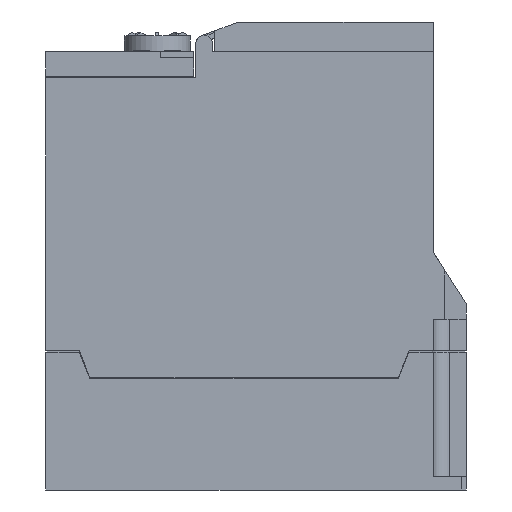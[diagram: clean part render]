
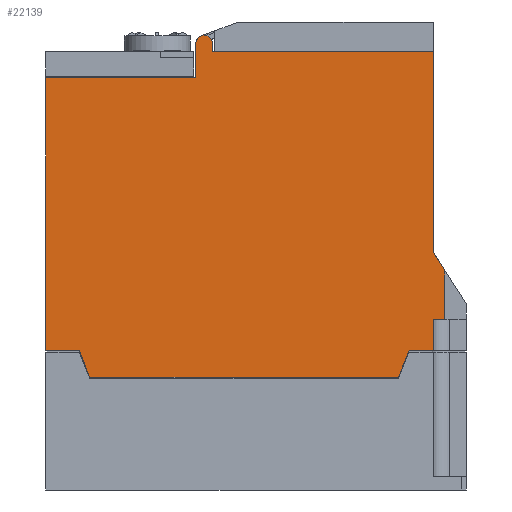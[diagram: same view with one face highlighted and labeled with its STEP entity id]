
A CAD part, left-side view. The second image highlights one B-rep face of the part: STEP entity #22139.
In plain terms, the highlighted planar face has unit normal (-1, 0, 0).
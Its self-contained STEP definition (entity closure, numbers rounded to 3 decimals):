
#2935=DIRECTION('',(0.,-0.362,0.932));
#2936=VECTOR('',#2935,8.796);
#2937=CARTESIAN_POINT('',(-34.,20.589,-7.7));
#2938=LINE('',#2937,#2936);
#5520=DIRECTION('',(0.,-1.,0.));
#5521=VECTOR('',#5520,3.4);
#5522=CARTESIAN_POINT('',(-34.,10.,10.));
#5523=LINE('',#5522,#5521);
#5552=DIRECTION('',(0.,0.,-1.));
#5553=VECTOR('',#5552,14.994);
#5554=CARTESIAN_POINT('',(-34.,6.6,24.994));
#5555=LINE('',#5554,#5553);
#5588=DIRECTION('',(0.,-1.,0.));
#5589=VECTOR('',#5588,10.206);
#5590=CARTESIAN_POINT('',(-34.,128.,0.5));
#5591=LINE('',#5590,#5589);
#5592=DIRECTION('',(0.,0.,1.));
#5593=VECTOR('',#5592,83.);
#5594=CARTESIAN_POINT('',(-34.,128.,0.5));
#5595=LINE('',#5594,#5593);
#5596=DIRECTION('',(0.,-0.017,1.));
#5597=VECTOR('',#5596,10.545);
#5598=CARTESIAN_POINT('',(-34.,82.484,83.5));
#5599=LINE('',#5598,#5597);
#5600=CARTESIAN_POINT('',(-34.,79.8,94.));
#5601=DIRECTION('',(1.,0.,0.));
#5602=DIRECTION('',(0.,1.,0.017));
#5603=AXIS2_PLACEMENT_3D('',#5600,#5601,#5602);
#5605=DIRECTION('',(0.,-0.017,-1.));
#5606=VECTOR('',#5605,2.544);
#5607=CARTESIAN_POINT('',(-34.,77.3,94.044));
#5608=LINE('',#5607,#5606);
#5609=DIRECTION('',(0.,0.,-1.));
#5610=VECTOR('',#5609,61.224);
#5611=CARTESIAN_POINT('',(-34.,10.,91.5));
#5612=LINE('',#5611,#5610);
#5613=DIRECTION('',(0.,-0.541,-0.841));
#5614=VECTOR('',#5613,6.281);
#5615=CARTESIAN_POINT('',(-34.,10.,30.276));
#5616=LINE('',#5615,#5614);
#5617=DIRECTION('',(0.,1.,0.));
#5618=VECTOR('',#5617,7.406);
#5619=CARTESIAN_POINT('',(-34.,10.,0.5));
#5620=LINE('',#5619,#5618);
#5637=DIRECTION('',(0.,-0.362,-0.932));
#5638=VECTOR('',#5637,8.796);
#5639=CARTESIAN_POINT('',(-34.,117.794,0.5));
#5640=LINE('',#5639,#5638);
#6230=DIRECTION('',(0.,-1.,0.));
#6231=VECTOR('',#6230,45.516);
#6232=CARTESIAN_POINT('',(-34.,128.,83.5));
#6233=LINE('',#6232,#6231);
#7832=DIRECTION('',(0.,-1.,0.));
#7833=VECTOR('',#7832,67.256);
#7834=CARTESIAN_POINT('',(-34.,77.256,91.5));
#7835=LINE('',#7834,#7833);
#7980=DIRECTION('',(0.,0.,1.));
#7981=VECTOR('',#7980,9.5);
#7982=CARTESIAN_POINT('',(-34.,10.,0.5));
#7983=LINE('',#7982,#7981);
#8052=DIRECTION('',(0.,-1.,0.));
#8053=VECTOR('',#8052,94.021);
#8054=CARTESIAN_POINT('',(-34.,114.611,-7.7));
#8055=LINE('',#8054,#8053);
#9470=CARTESIAN_POINT('',(-34.,114.611,-7.7));
#9471=CARTESIAN_POINT('',(-34.,20.589,-7.7));
#9472=VERTEX_POINT('',#9470);
#9473=VERTEX_POINT('',#9471);
#9552=CARTESIAN_POINT('',(-34.,128.,83.5));
#9553=VERTEX_POINT('',#9552);
#9556=CARTESIAN_POINT('',(-34.,10.,91.5));
#9558=VERTEX_POINT('',#9556);
#9564=CARTESIAN_POINT('',(-34.,82.3,94.044));
#9565=CARTESIAN_POINT('',(-34.,77.3,94.044));
#9566=VERTEX_POINT('',#9564);
#9567=VERTEX_POINT('',#9565);
#9572=CARTESIAN_POINT('',(-34.,77.256,91.5));
#9573=VERTEX_POINT('',#9572);
#9807=CARTESIAN_POINT('',(-34.,128.,0.5));
#9809=VERTEX_POINT('',#9807);
#9894=CARTESIAN_POINT('',(-34.,117.794,0.5));
#9896=VERTEX_POINT('',#9894);
#9899=CARTESIAN_POINT('',(-34.,17.406,0.5));
#9901=VERTEX_POINT('',#9899);
#9906=CARTESIAN_POINT('',(-34.,10.,0.5));
#9907=VERTEX_POINT('',#9906);
#9966=CARTESIAN_POINT('',(-34.,82.484,83.5));
#9967=VERTEX_POINT('',#9966);
#10086=CARTESIAN_POINT('',(-34.,6.6,10.));
#10088=VERTEX_POINT('',#10086);
#10094=CARTESIAN_POINT('',(-34.,10.,10.));
#10095=VERTEX_POINT('',#10094);
#10098=CARTESIAN_POINT('',(-34.,10.,30.276));
#10099=CARTESIAN_POINT('',(-34.,6.6,24.994));
#10100=VERTEX_POINT('',#10098);
#10101=VERTEX_POINT('',#10099);
#22105=CARTESIAN_POINT('',(-34.,128.,-7.7));
#22106=DIRECTION('',(-1.,0.,0.));
#22107=DIRECTION('',(0.,-1.,0.));
#22108=AXIS2_PLACEMENT_3D('',#22105,#22106,#22107);
#22109=PLANE('',#22108);
#22111=ORIENTED_EDGE('',*,*,#22110,.F.);
#22113=ORIENTED_EDGE('',*,*,#22112,.F.);
#22115=ORIENTED_EDGE('',*,*,#22114,.T.);
#22117=ORIENTED_EDGE('',*,*,#22116,.T.);
#22119=ORIENTED_EDGE('',*,*,#22118,.T.);
#22121=ORIENTED_EDGE('',*,*,#22120,.T.);
#22123=ORIENTED_EDGE('',*,*,#22122,.T.);
#22125=ORIENTED_EDGE('',*,*,#22124,.T.);
#22127=ORIENTED_EDGE('',*,*,#22126,.T.);
#22128=ORIENTED_EDGE('',*,*,#22066,.T.);
#22129=ORIENTED_EDGE('',*,*,#22023,.T.);
#22130=ORIENTED_EDGE('',*,*,#21956,.F.);
#22132=ORIENTED_EDGE('',*,*,#22131,.F.);
#22133=ORIENTED_EDGE('',*,*,#16508,.T.);
#22134=ORIENTED_EDGE('',*,*,#16609,.F.);
#22136=ORIENTED_EDGE('',*,*,#22135,.F.);
#22137=EDGE_LOOP('',(#22111,#22113,#22115,#22117,#22119,#22121,#22123,#22125,
#22127,#22128,#22129,#22130,#22132,#22133,#22134,#22136));
#22138=FACE_OUTER_BOUND('',#22137,.F.);
#22139=ADVANCED_FACE('',(#22138),#22109,.T.);
#5604=CIRCLE('',#5603,2.5);
#16508=EDGE_CURVE('',#9907,#9901,#5620,.T.);
#16609=EDGE_CURVE('',#9473,#9901,#2938,.T.);
#21956=EDGE_CURVE('',#10095,#10088,#5523,.T.);
#22023=EDGE_CURVE('',#10101,#10088,#5555,.T.);
#22066=EDGE_CURVE('',#10100,#10101,#5616,.T.);
#22110=EDGE_CURVE('',#9896,#9472,#5640,.T.);
#22112=EDGE_CURVE('',#9809,#9896,#5591,.T.);
#22114=EDGE_CURVE('',#9809,#9553,#5595,.T.);
#22116=EDGE_CURVE('',#9553,#9967,#6233,.T.);
#22118=EDGE_CURVE('',#9967,#9566,#5599,.T.);
#22120=EDGE_CURVE('',#9566,#9567,#5604,.T.);
#22122=EDGE_CURVE('',#9567,#9573,#5608,.T.);
#22124=EDGE_CURVE('',#9573,#9558,#7835,.T.);
#22126=EDGE_CURVE('',#9558,#10100,#5612,.T.);
#22131=EDGE_CURVE('',#9907,#10095,#7983,.T.);
#22135=EDGE_CURVE('',#9472,#9473,#8055,.T.);
